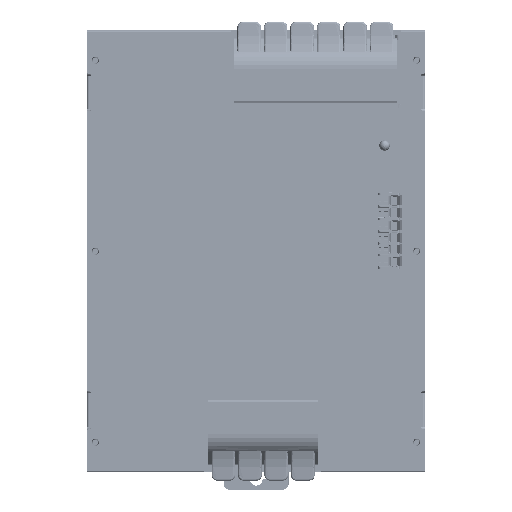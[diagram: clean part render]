
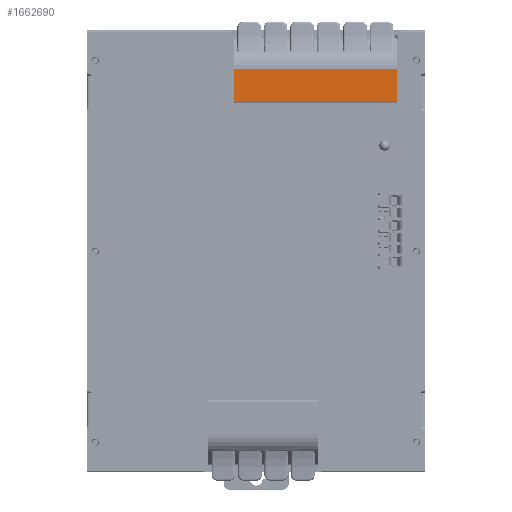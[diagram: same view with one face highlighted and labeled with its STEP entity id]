
A CAD part, left-side view. The second image highlights one B-rep face of the part: STEP entity #1662690.
In plain terms, the highlighted planar face has unit normal (-1, 0, 0) as drawn and (0, 0, 1) by its records, which use the part's own axes.
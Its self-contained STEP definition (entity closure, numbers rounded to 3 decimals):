
#1661160=CARTESIAN_POINT('',(-0.067,0.96,14.47));
#1661170=VERTEX_POINT('',#1661160);
#1662260=CARTESIAN_POINT('',(9.,0.96,14.47));
#1662270=VERTEX_POINT('',#1662260);
#1662300=CARTESIAN_POINT('',(9.,0.96,14.47));
#1662310=DIRECTION('',(-1.,0.,0.));
#1662320=VECTOR('',#1662310,1.);
#1662330=LINE('',#1662300,#1662320);
#1662340=EDGE_CURVE('',#1662270,#1661170,#1662330,.T.);
#1662390=CARTESIAN_POINT('',(9.,-14.04,14.47));
#1662400=DIRECTION('',(0.,0.,1.));
#1662410=DIRECTION('',(1.,0.,0.));
#1662420=AXIS2_PLACEMENT_3D('',#1662390,#1662400,#1662410);
#1662430=PLANE('',#1662420);
#1662440=CARTESIAN_POINT('',(9.,-45.24,14.47));
#1662450=DIRECTION('',(-1.,0.,0.));
#1662460=VECTOR('',#1662450,1.);
#1662470=LINE('',#1662440,#1662460);
#1662480=CARTESIAN_POINT('',(9.,-45.24,14.47));
#1662490=VERTEX_POINT('',#1662480);
#1662500=CARTESIAN_POINT('',(-0.067,-45.24,14.47));
#1662510=VERTEX_POINT('',#1662500);
#1662520=EDGE_CURVE('',#1662490,#1662510,#1662470,.T.);
#1662530=ORIENTED_EDGE('',*,*,#1662520,.F.);
#1662540=CARTESIAN_POINT('',(-0.067,-30.24,14.47));
#1662550=DIRECTION('',(0.,1.,0.));
#1662560=VECTOR('',#1662550,1.);
#1662570=LINE('',#1662540,#1662560);
#1662580=EDGE_CURVE('',#1662510,#1661170,#1662570,.T.);
#1662590=ORIENTED_EDGE('',*,*,#1662580,.F.);
#1662600=ORIENTED_EDGE('',*,*,#1662340,.T.);
#1662610=CARTESIAN_POINT('',(9.,0.96,14.47));
#1662620=DIRECTION('',(0.,-1.,0.));
#1662630=VECTOR('',#1662620,1.);
#1662640=LINE('',#1662610,#1662630);
#1662650=EDGE_CURVE('',#1662270,#1662490,#1662640,.T.);
#1662660=ORIENTED_EDGE('',*,*,#1662650,.F.);
#1662670=EDGE_LOOP('',(#1662660,#1662600,#1662590,#1662530));
#1662680=FACE_OUTER_BOUND('',#1662670,.T.);
#1662690=ADVANCED_FACE('',(#1662680),#1662430,.T.);
